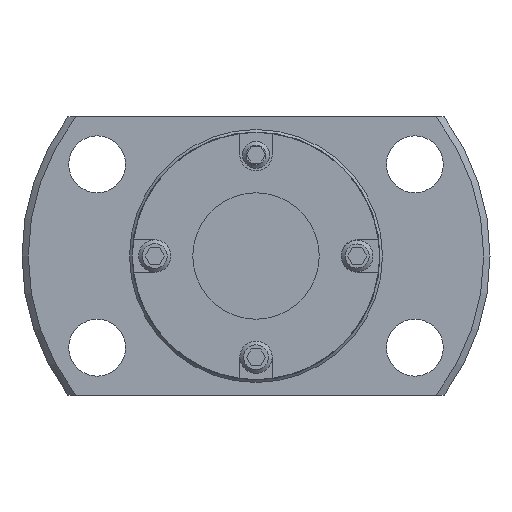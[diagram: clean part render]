
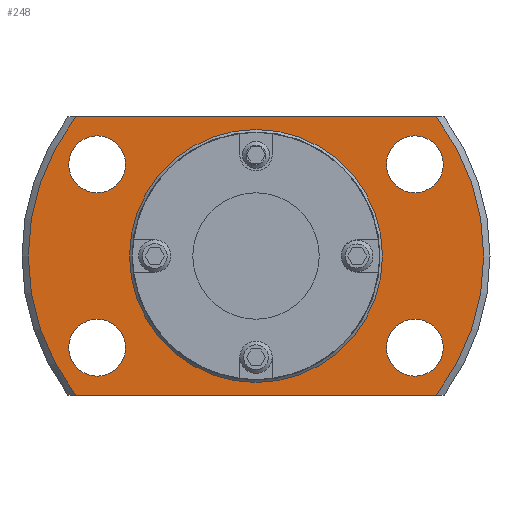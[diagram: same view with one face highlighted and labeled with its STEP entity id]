
A CAD part, left-side view. The second image highlights one B-rep face of the part: STEP entity #248.
In plain terms, the highlighted planar face has unit normal (-1, 0, 0).
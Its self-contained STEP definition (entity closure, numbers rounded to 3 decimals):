
#248 = ADVANCED_FACE( '', ( #444, #445, #446, #447, #448, #449 ), #450, .F. );
#444 = FACE_OUTER_BOUND( '', #657, .T. );
#445 = FACE_BOUND( '', #658, .T. );
#446 = FACE_BOUND( '', #659, .T. );
#447 = FACE_BOUND( '', #660, .T. );
#448 = FACE_BOUND( '', #661, .T. );
#449 = FACE_BOUND( '', #662, .T. );
#450 = PLANE( '', #663 );
#657 = EDGE_LOOP( '', ( #1249, #1250, #1251, #1252 ) );
#658 = EDGE_LOOP( '', ( #1253 ) );
#659 = EDGE_LOOP( '', ( #1254 ) );
#660 = EDGE_LOOP( '', ( #1255 ) );
#661 = EDGE_LOOP( '', ( #1256 ) );
#662 = EDGE_LOOP( '', ( #1257 ) );
#663 = AXIS2_PLACEMENT_3D( '', #1258, #1259, #1260 );
#1249 = ORIENTED_EDGE( '', *, *, #1316, .F. );
#1250 = ORIENTED_EDGE( '', *, *, #1448, .T. );
#1251 = ORIENTED_EDGE( '', *, *, #1454, .F. );
#1252 = ORIENTED_EDGE( '', *, *, #1315, .T. );
#1253 = ORIENTED_EDGE( '', *, *, #1419, .T. );
#1254 = ORIENTED_EDGE( '', *, *, #1436, .T. );
#1255 = ORIENTED_EDGE( '', *, *, #1438, .T. );
#1256 = ORIENTED_EDGE( '', *, *, #1440, .T. );
#1257 = ORIENTED_EDGE( '', *, *, #1483, .T. );
#1258 = CARTESIAN_POINT( '', ( 13., 9.75, 0. ) );
#1259 = DIRECTION( '', ( 1., 0., 0. ) );
#1260 = DIRECTION( '', ( 0., 0., -1. ) );
#1315 = EDGE_CURVE( '', #1494, #1506, #1508, .T. );
#1316 = EDGE_CURVE( '', #1509, #1506, #1510, .T. );
#1419 = EDGE_CURVE( '', #1687, #1687, #1688, .T. );
#1436 = EDGE_CURVE( '', #1716, #1716, #1717, .T. );
#1438 = EDGE_CURVE( '', #1720, #1720, #1721, .T. );
#1440 = EDGE_CURVE( '', #1724, #1724, #1725, .T. );
#1448 = EDGE_CURVE( '', #1509, #1738, #1740, .T. );
#1454 = EDGE_CURVE( '', #1494, #1738, #1747, .T. );
#1483 = EDGE_CURVE( '', #1791, #1791, #1792, .T. );
#1494 = VERTEX_POINT( '', #1808 );
#1506 = VERTEX_POINT( '', #1832 );
#1508 = LINE( '', #1837, #1838 );
#1509 = VERTEX_POINT( '', #1839 );
#1510 = CIRCLE( '', #1840, 18. );
#1687 = VERTEX_POINT( '', #2102 );
#1688 = CIRCLE( '', #2103, 2.25 );
#1716 = VERTEX_POINT( '', #2142 );
#1717 = CIRCLE( '', #2143, 2.25 );
#1720 = VERTEX_POINT( '', #2146 );
#1721 = CIRCLE( '', #2147, 2.25 );
#1724 = VERTEX_POINT( '', #2150 );
#1725 = CIRCLE( '', #2151, 2.25 );
#1738 = VERTEX_POINT( '', #2173 );
#1740 = LINE( '', #2178, #2179 );
#1747 = CIRCLE( '', #2186, 18. );
#1791 = VERTEX_POINT( '', #2245 );
#1792 = CIRCLE( '', #2246, 9.75 );
#1808 = CARTESIAN_POINT( '', ( 13., -14.248, 11. ) );
#1832 = CARTESIAN_POINT( '', ( 13., 14.248, 11. ) );
#1837 = CARTESIAN_POINT( '', ( 13., 9.75, 11. ) );
#1838 = VECTOR( '', #2266, 1000. );
#1839 = CARTESIAN_POINT( '', ( 13., 14.248, -11. ) );
#1840 = AXIS2_PLACEMENT_3D( '', #2267, #2268, #2269 );
#2102 = CARTESIAN_POINT( '', ( 13., -12.557, 5. ) );
#2103 = AXIS2_PLACEMENT_3D( '', #2409, #2410, #2411 );
#2142 = CARTESIAN_POINT( '', ( 13., -12.557, -9.5 ) );
#2143 = AXIS2_PLACEMENT_3D( '', #2438, #2439, #2440 );
#2146 = CARTESIAN_POINT( '', ( 13., 12.557, -9.5 ) );
#2147 = AXIS2_PLACEMENT_3D( '', #2444, #2445, #2446 );
#2150 = CARTESIAN_POINT( '', ( 13., 12.557, 5. ) );
#2151 = AXIS2_PLACEMENT_3D( '', #2450, #2451, #2452 );
#2173 = CARTESIAN_POINT( '', ( 13., -14.248, -11. ) );
#2178 = CARTESIAN_POINT( '', ( 13., 9.75, -11. ) );
#2179 = VECTOR( '', #2459, 1000. );
#2186 = AXIS2_PLACEMENT_3D( '', #2475, #2476, #2477 );
#2245 = CARTESIAN_POINT( '', ( 13., 0., -9.75 ) );
#2246 = AXIS2_PLACEMENT_3D( '', #2532, #2533, #2534 );
#2266 = DIRECTION( '', ( 0., 1., 0. ) );
#2267 = CARTESIAN_POINT( '', ( 13., 0., 0. ) );
#2268 = DIRECTION( '', ( 1., 0., 0. ) );
#2269 = DIRECTION( '', ( 0., 0., -1. ) );
#2409 = CARTESIAN_POINT( '', ( 13., -12.557, 7.25 ) );
#2410 = DIRECTION( '', ( 1., 0., 0. ) );
#2411 = DIRECTION( '', ( 0., 0., -1. ) );
#2438 = CARTESIAN_POINT( '', ( 13., -12.557, -7.25 ) );
#2439 = DIRECTION( '', ( 1., 0., 0. ) );
#2440 = DIRECTION( '', ( 0., 0., -1. ) );
#2444 = CARTESIAN_POINT( '', ( 13., 12.557, -7.25 ) );
#2445 = DIRECTION( '', ( 1., 0., 0. ) );
#2446 = DIRECTION( '', ( 0., 0., -1. ) );
#2450 = CARTESIAN_POINT( '', ( 13., 12.557, 7.25 ) );
#2451 = DIRECTION( '', ( 1., 0., 0. ) );
#2452 = DIRECTION( '', ( 0., 0., -1. ) );
#2459 = DIRECTION( '', ( 0., -1., 0. ) );
#2475 = CARTESIAN_POINT( '', ( 13., 0., 0. ) );
#2476 = DIRECTION( '', ( 1., 0., 0. ) );
#2477 = DIRECTION( '', ( 0., 0., -1. ) );
#2532 = CARTESIAN_POINT( '', ( 13., 0., 0. ) );
#2533 = DIRECTION( '', ( 1., 0., 0. ) );
#2534 = DIRECTION( '', ( 0., 0., -1. ) );
